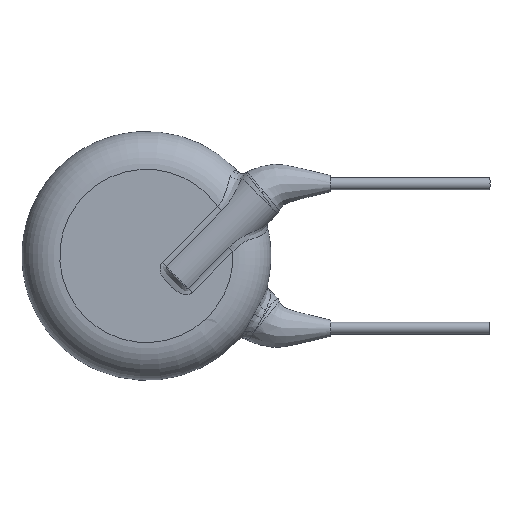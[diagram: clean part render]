
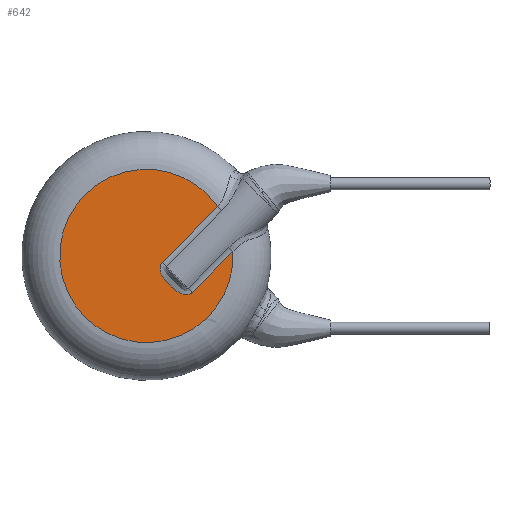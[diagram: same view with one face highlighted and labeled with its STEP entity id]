
A CAD part, front view. The second image highlights one B-rep face of the part: STEP entity #642.
In plain terms, the highlighted planar face has unit normal (0, -1, 0).
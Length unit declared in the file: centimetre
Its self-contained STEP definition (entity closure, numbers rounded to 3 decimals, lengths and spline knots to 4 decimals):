
#22=LINE('',#961,#30);
#24=LINE('',#1230,#32);
#30=VECTOR('',#754,0.2889);
#32=VECTOR('',#772,0.3944);
#45=B_SPLINE_CURVE_WITH_KNOTS('',3,(#930,#931,#932,#933,#934,#935,#936,
#937,#938,#939,#940,#941),.UNSPECIFIED.,.F.,.F.,(4,1,1,1,1,1,1,1,1,4),(0.2638,
0.2826,0.3015,0.3392,0.3768,
0.4145,0.4522,0.4899,0.5087,
0.5276),.UNSPECIFIED.);
#133=FACE_OUTER_BOUND('',#179,.T.);
#179=EDGE_LOOP('',(#455,#456,#457,#458));
#226=CIRCLE('',#694,0.435);
#252=VERTEX_POINT('',#927);
#253=VERTEX_POINT('',#929);
#255=VERTEX_POINT('',#957);
#269=VERTEX_POINT('',#1215);
#308=EDGE_CURVE('',#252,#253,#45,.T.);
#313=EDGE_CURVE('',#253,#255,#22,.T.);
#336=EDGE_CURVE('',#269,#252,#24,.T.);
#345=EDGE_CURVE('',#255,#269,#226,.T.);
#455=ORIENTED_EDGE('',*,*,#313,.F.);
#456=ORIENTED_EDGE('',*,*,#308,.F.);
#457=ORIENTED_EDGE('',*,*,#336,.F.);
#458=ORIENTED_EDGE('',*,*,#345,.F.);
#581=PLANE('',#695);
#642=ADVANCED_FACE('',(#133),#581,.F.);
#694=AXIS2_PLACEMENT_3D('',#1274,#777,#778);
#695=AXIS2_PLACEMENT_3D('',#1275,#779,#780);
#754=DIRECTION('',(0.707,0.,0.707));
#772=DIRECTION('',(-0.707,0.,-0.707));
#777=DIRECTION('center_axis',(0.,1.,0.));
#778=DIRECTION('ref_axis',(-1.,0.,0.));
#779=DIRECTION('center_axis',(0.,1.,0.));
#780=DIRECTION('ref_axis',(1.,0.,0.));
#927=CARTESIAN_POINT('',(0.0794,-0.125,-0.032));
#929=CARTESIAN_POINT('',(0.2302,-0.125,-0.1829));
#930=CARTESIAN_POINT('Ctrl Pts',(0.0794,-0.125,-0.032));
#931=CARTESIAN_POINT('Ctrl Pts',(0.0749,-0.125,-0.0365));
#932=CARTESIAN_POINT('Ctrl Pts',(0.0686,-0.125,-0.0478));
#933=CARTESIAN_POINT('Ctrl Pts',(0.0672,-0.125,-0.0734));
#934=CARTESIAN_POINT('Ctrl Pts',(0.0796,-0.125,-0.103));
#935=CARTESIAN_POINT('Ctrl Pts',(0.1027,-0.125,-0.1328));
#936=CARTESIAN_POINT('Ctrl Pts',(0.1294,-0.125,-0.1595));
#937=CARTESIAN_POINT('Ctrl Pts',(0.1592,-0.125,-0.1826));
#938=CARTESIAN_POINT('Ctrl Pts',(0.1888,-0.125,-0.1951));
#939=CARTESIAN_POINT('Ctrl Pts',(0.2145,-0.125,-0.1937));
#940=CARTESIAN_POINT('Ctrl Pts',(0.2257,-0.125,-0.1873));
#941=CARTESIAN_POINT('Ctrl Pts',(0.2302,-0.125,-0.1829));
#957=CARTESIAN_POINT('',(0.4345,-0.125,0.0214));
#961=CARTESIAN_POINT('',(0.6418,-0.125,0.2288));
#1215=CARTESIAN_POINT('',(0.3582,-0.125,0.2468));
#1230=CARTESIAN_POINT('',(0.491,-0.125,0.3796));
#1274=CARTESIAN_POINT('Origin',(0.,-0.125,0.));
#1275=CARTESIAN_POINT('Origin',(0.,-0.125,0.));
